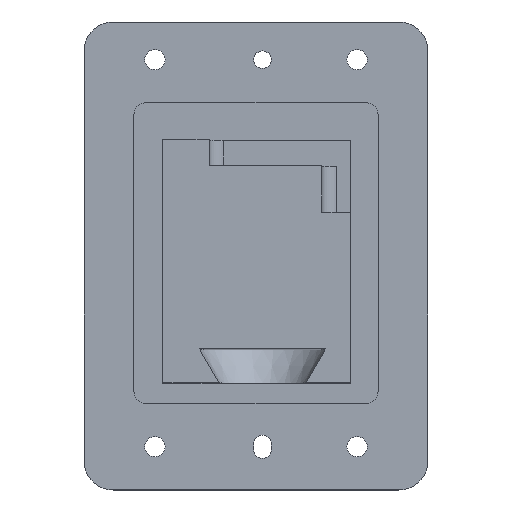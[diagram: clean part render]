
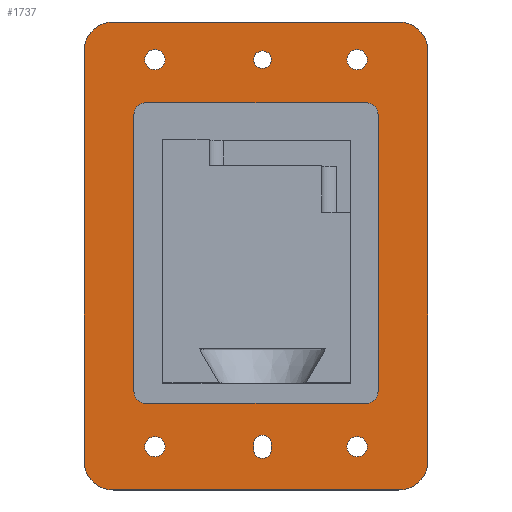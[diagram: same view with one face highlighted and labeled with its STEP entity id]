
A CAD part, top view. The second image highlights one B-rep face of the part: STEP entity #1737.
In plain terms, the highlighted planar face has unit normal (0, 0, 1).
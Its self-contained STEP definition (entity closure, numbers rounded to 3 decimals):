
#19=FACE_BOUND('',#241,.T.);
#20=FACE_BOUND('',#242,.T.);
#21=FACE_BOUND('',#243,.T.);
#22=FACE_BOUND('',#244,.T.);
#23=FACE_BOUND('',#245,.T.);
#24=FACE_BOUND('',#246,.T.);
#25=FACE_BOUND('',#247,.T.);
#68=PLANE('',#1861);
#140=FACE_OUTER_BOUND('',#240,.T.);
#240=EDGE_LOOP('',(#1323,#1324,#1325,#1326,#1327,#1328,#1329,#1330));
#241=EDGE_LOOP('',(#1331,#1332,#1333,#1334,#1335,#1336,#1337,#1338));
#242=EDGE_LOOP('',(#1339));
#243=EDGE_LOOP('',(#1340,#1341,#1342,#1343));
#244=EDGE_LOOP('',(#1344));
#245=EDGE_LOOP('',(#1345));
#246=EDGE_LOOP('',(#1346));
#247=EDGE_LOOP('',(#1347));
#360=LINE('',#2555,#543);
#370=LINE('',#2584,#553);
#374=LINE('',#2595,#557);
#375=LINE('',#2597,#558);
#394=LINE('',#2646,#577);
#398=LINE('',#2657,#581);
#405=LINE('',#2676,#588);
#406=LINE('',#2680,#589);
#407=LINE('',#2684,#590);
#408=LINE('',#2687,#591);
#543=VECTOR('',#2044,48.);
#553=VECTOR('',#2068,48.);
#557=VECTOR('',#2082,38.25);
#558=VECTOR('',#2085,38.25);
#577=VECTOR('',#2124,1.);
#581=VECTOR('',#2136,1.);
#588=VECTOR('',#2153,49.5);
#589=VECTOR('',#2156,71.);
#590=VECTOR('',#2159,49.5);
#591=VECTOR('',#2162,71.);
#711=CIRCLE('',#1829,2.);
#715=CIRCLE('',#1836,2.);
#716=CIRCLE('',#1839,2.);
#717=CIRCLE('',#1841,2.);
#719=CIRCLE('',#1848,1.5);
#721=CIRCLE('',#1851,1.5);
#723=CIRCLE('',#1855,1.5);
#726=CIRCLE('',#1862,5.);
#727=CIRCLE('',#1863,5.);
#728=CIRCLE('',#1864,5.);
#729=CIRCLE('',#1865,5.);
#730=CIRCLE('',#1866,1.75);
#731=CIRCLE('',#1867,1.75);
#732=CIRCLE('',#1868,1.75);
#733=CIRCLE('',#1869,1.75);
#792=VERTEX_POINT('',#2545);
#793=VERTEX_POINT('',#2547);
#795=VERTEX_POINT('',#2553);
#805=VERTEX_POINT('',#2577);
#806=VERTEX_POINT('',#2579);
#807=VERTEX_POINT('',#2583);
#808=VERTEX_POINT('',#2587);
#809=VERTEX_POINT('',#2591);
#823=VERTEX_POINT('',#2631);
#825=VERTEX_POINT('',#2636);
#826=VERTEX_POINT('',#2637);
#829=VERTEX_POINT('',#2645);
#831=VERTEX_POINT('',#2651);
#837=VERTEX_POINT('',#2672);
#838=VERTEX_POINT('',#2673);
#839=VERTEX_POINT('',#2675);
#840=VERTEX_POINT('',#2677);
#841=VERTEX_POINT('',#2679);
#842=VERTEX_POINT('',#2681);
#843=VERTEX_POINT('',#2683);
#844=VERTEX_POINT('',#2685);
#845=VERTEX_POINT('',#2688);
#846=VERTEX_POINT('',#2690);
#847=VERTEX_POINT('',#2692);
#848=VERTEX_POINT('',#2694);
#970=EDGE_CURVE('',#792,#793,#711,.F.);
#974=EDGE_CURVE('',#792,#795,#360,.T.);
#986=EDGE_CURVE('',#805,#806,#715,.F.);
#988=EDGE_CURVE('',#807,#806,#370,.T.);
#991=EDGE_CURVE('',#808,#795,#716,.F.);
#992=EDGE_CURVE('',#807,#809,#717,.F.);
#994=EDGE_CURVE('',#808,#809,#374,.T.);
#995=EDGE_CURVE('',#805,#793,#375,.T.);
#1013=EDGE_CURVE('',#823,#823,#719,.T.);
#1015=EDGE_CURVE('',#825,#826,#721,.T.);
#1019=EDGE_CURVE('',#826,#829,#394,.T.);
#1022=EDGE_CURVE('',#829,#831,#723,.T.);
#1025=EDGE_CURVE('',#831,#825,#398,.T.);
#1033=EDGE_CURVE('',#837,#838,#726,.T.);
#1034=EDGE_CURVE('',#837,#839,#405,.T.);
#1035=EDGE_CURVE('',#840,#839,#727,.T.);
#1036=EDGE_CURVE('',#840,#841,#406,.T.);
#1037=EDGE_CURVE('',#842,#841,#728,.T.);
#1038=EDGE_CURVE('',#842,#843,#407,.T.);
#1039=EDGE_CURVE('',#844,#843,#729,.T.);
#1040=EDGE_CURVE('',#844,#838,#408,.T.);
#1041=EDGE_CURVE('',#845,#845,#730,.T.);
#1042=EDGE_CURVE('',#846,#846,#731,.T.);
#1043=EDGE_CURVE('',#847,#847,#732,.T.);
#1044=EDGE_CURVE('',#848,#848,#733,.T.);
#1323=ORIENTED_EDGE('',*,*,#1033,.F.);
#1324=ORIENTED_EDGE('',*,*,#1034,.T.);
#1325=ORIENTED_EDGE('',*,*,#1035,.F.);
#1326=ORIENTED_EDGE('',*,*,#1036,.T.);
#1327=ORIENTED_EDGE('',*,*,#1037,.F.);
#1328=ORIENTED_EDGE('',*,*,#1038,.T.);
#1329=ORIENTED_EDGE('',*,*,#1039,.F.);
#1330=ORIENTED_EDGE('',*,*,#1040,.T.);
#1331=ORIENTED_EDGE('',*,*,#988,.T.);
#1332=ORIENTED_EDGE('',*,*,#986,.F.);
#1333=ORIENTED_EDGE('',*,*,#995,.T.);
#1334=ORIENTED_EDGE('',*,*,#970,.F.);
#1335=ORIENTED_EDGE('',*,*,#974,.T.);
#1336=ORIENTED_EDGE('',*,*,#991,.F.);
#1337=ORIENTED_EDGE('',*,*,#994,.T.);
#1338=ORIENTED_EDGE('',*,*,#992,.F.);
#1339=ORIENTED_EDGE('',*,*,#1013,.T.);
#1340=ORIENTED_EDGE('',*,*,#1022,.T.);
#1341=ORIENTED_EDGE('',*,*,#1025,.T.);
#1342=ORIENTED_EDGE('',*,*,#1015,.T.);
#1343=ORIENTED_EDGE('',*,*,#1019,.T.);
#1344=ORIENTED_EDGE('',*,*,#1041,.T.);
#1345=ORIENTED_EDGE('',*,*,#1042,.T.);
#1346=ORIENTED_EDGE('',*,*,#1043,.T.);
#1347=ORIENTED_EDGE('',*,*,#1044,.T.);
#1737=ADVANCED_FACE('',(#140,#19,#20,#21,#22,#23,#24,#25),#68,.T.);
#1829=AXIS2_PLACEMENT_3D('',#2548,#2037,#2038);
#1836=AXIS2_PLACEMENT_3D('',#2580,#2063,#2064);
#1839=AXIS2_PLACEMENT_3D('',#2589,#2073,#2074);
#1841=AXIS2_PLACEMENT_3D('',#2592,#2077,#2078);
#1848=AXIS2_PLACEMENT_3D('',#2632,#2110,#2111);
#1851=AXIS2_PLACEMENT_3D('',#2638,#2116,#2117);
#1855=AXIS2_PLACEMENT_3D('',#2652,#2129,#2130);
#1861=AXIS2_PLACEMENT_3D('',#2671,#2149,#2150);
#1862=AXIS2_PLACEMENT_3D('',#2674,#2151,#2152);
#1863=AXIS2_PLACEMENT_3D('',#2678,#2154,#2155);
#1864=AXIS2_PLACEMENT_3D('',#2682,#2157,#2158);
#1865=AXIS2_PLACEMENT_3D('',#2686,#2160,#2161);
#1866=AXIS2_PLACEMENT_3D('',#2689,#2163,#2164);
#1867=AXIS2_PLACEMENT_3D('',#2691,#2165,#2166);
#1868=AXIS2_PLACEMENT_3D('',#2693,#2167,#2168);
#1869=AXIS2_PLACEMENT_3D('',#2695,#2169,#2170);
#2037=DIRECTION('center_axis',(0.,0.,-1.));
#2038=DIRECTION('ref_axis',(-0.707,-0.707,0.));
#2044=DIRECTION('',(0.,1.,0.));
#2063=DIRECTION('center_axis',(0.,0.,-1.));
#2064=DIRECTION('ref_axis',(0.707,-0.707,0.));
#2068=DIRECTION('',(0.,-1.,0.));
#2073=DIRECTION('center_axis',(0.,0.,-1.));
#2074=DIRECTION('ref_axis',(-0.707,0.707,0.));
#2077=DIRECTION('center_axis',(0.,0.,-1.));
#2078=DIRECTION('ref_axis',(0.707,0.707,0.));
#2082=DIRECTION('',(1.,0.,0.));
#2085=DIRECTION('',(-1.,0.,0.));
#2110=DIRECTION('center_axis',(0.,0.,-1.));
#2111=DIRECTION('ref_axis',(1.,0.,0.));
#2116=DIRECTION('center_axis',(0.,0.,-1.));
#2117=DIRECTION('ref_axis',(-1.,0.,0.));
#2124=DIRECTION('',(0.,-1.,0.));
#2129=DIRECTION('center_axis',(0.,0.,-1.));
#2130=DIRECTION('ref_axis',(1.,0.,0.));
#2136=DIRECTION('',(0.,1.,0.));
#2149=DIRECTION('center_axis',(0.,0.,1.));
#2150=DIRECTION('ref_axis',(1.,0.,0.));
#2151=DIRECTION('center_axis',(0.,0.,-1.));
#2152=DIRECTION('ref_axis',(-0.707,-0.707,0.));
#2153=DIRECTION('',(1.,0.,0.));
#2154=DIRECTION('center_axis',(0.,0.,-1.));
#2155=DIRECTION('ref_axis',(0.707,-0.707,0.));
#2156=DIRECTION('',(0.,1.,0.));
#2157=DIRECTION('center_axis',(0.,0.,-1.));
#2158=DIRECTION('ref_axis',(0.707,0.707,0.));
#2159=DIRECTION('',(-1.,0.,0.));
#2160=DIRECTION('center_axis',(0.,0.,-1.));
#2161=DIRECTION('ref_axis',(-0.707,0.707,0.));
#2162=DIRECTION('',(0.,-1.,0.));
#2163=DIRECTION('center_axis',(0.,0.,-1.));
#2164=DIRECTION('ref_axis',(-1.,0.,0.));
#2165=DIRECTION('center_axis',(0.,0.,-1.));
#2166=DIRECTION('ref_axis',(-1.,0.,0.));
#2167=DIRECTION('center_axis',(0.,0.,-1.));
#2168=DIRECTION('ref_axis',(-1.,0.,0.));
#2169=DIRECTION('center_axis',(0.,0.,-1.));
#2170=DIRECTION('ref_axis',(-1.,0.,0.));
#2545=CARTESIAN_POINT('',(-21.25,-25.5,-33.5));
#2547=CARTESIAN_POINT('',(-19.25,-27.5,-33.5));
#2548=CARTESIAN_POINT('Origin',(-19.25,-25.5,-33.5));
#2553=CARTESIAN_POINT('',(-21.25,22.5,-33.5));
#2555=CARTESIAN_POINT('',(-21.25,11.25,-33.5));
#2577=CARTESIAN_POINT('',(19.,-27.5,-33.5));
#2579=CARTESIAN_POINT('',(21.,-25.5,-33.5));
#2580=CARTESIAN_POINT('Origin',(19.,-25.5,-33.5));
#2583=CARTESIAN_POINT('',(21.,22.5,-33.5));
#2584=CARTESIAN_POINT('',(21.,-14.75,-33.5));
#2587=CARTESIAN_POINT('',(-19.25,24.5,-33.5));
#2589=CARTESIAN_POINT('Origin',(-19.25,22.5,-33.5));
#2591=CARTESIAN_POINT('',(19.,24.5,-33.5));
#2592=CARTESIAN_POINT('Origin',(19.,22.5,-33.5));
#2595=CARTESIAN_POINT('',(10.438,24.5,-33.5));
#2597=CARTESIAN_POINT('',(-10.688,-27.5,-33.5));
#2631=CARTESIAN_POINT('',(-0.5,32.,-33.5));
#2632=CARTESIAN_POINT('Origin',(1.,32.,-33.5));
#2636=CARTESIAN_POINT('',(-0.5,-34.5,-33.5));
#2637=CARTESIAN_POINT('',(2.5,-34.5,-33.5));
#2638=CARTESIAN_POINT('Origin',(1.,-34.5,-33.5));
#2645=CARTESIAN_POINT('',(2.5,-35.5,-33.5));
#2646=CARTESIAN_POINT('',(2.5,-18.75,-33.5));
#2651=CARTESIAN_POINT('',(-0.5,-35.5,-33.5));
#2652=CARTESIAN_POINT('Origin',(1.,-35.5,-33.5));
#2657=CARTESIAN_POINT('',(-0.5,-18.25,-33.5));
#2671=CARTESIAN_POINT('Origin',(-0.125,-2.,-33.5));
#2672=CARTESIAN_POINT('',(-24.875,-42.5,-33.5));
#2673=CARTESIAN_POINT('',(-29.875,-37.5,-33.5));
#2674=CARTESIAN_POINT('Origin',(-24.875,-37.5,-33.5));
#2675=CARTESIAN_POINT('',(24.625,-42.5,-33.5));
#2676=CARTESIAN_POINT('',(-29.875,-42.5,-33.5));
#2677=CARTESIAN_POINT('',(29.625,-37.5,-33.5));
#2678=CARTESIAN_POINT('Origin',(24.625,-37.5,-33.5));
#2679=CARTESIAN_POINT('',(29.625,33.5,-33.5));
#2680=CARTESIAN_POINT('',(29.625,-42.5,-33.5));
#2681=CARTESIAN_POINT('',(24.625,38.5,-33.5));
#2682=CARTESIAN_POINT('Origin',(24.625,33.5,-33.5));
#2683=CARTESIAN_POINT('',(-24.875,38.5,-33.5));
#2684=CARTESIAN_POINT('',(29.625,38.5,-33.5));
#2685=CARTESIAN_POINT('',(-29.875,33.5,-33.5));
#2686=CARTESIAN_POINT('Origin',(-24.875,33.5,-33.5));
#2687=CARTESIAN_POINT('',(-29.875,38.5,-33.5));
#2688=CARTESIAN_POINT('',(-15.875,-35.,-33.5));
#2689=CARTESIAN_POINT('Origin',(-17.625,-35.,-33.5));
#2690=CARTESIAN_POINT('',(-15.875,32.,-33.5));
#2691=CARTESIAN_POINT('Origin',(-17.625,32.,-33.5));
#2692=CARTESIAN_POINT('',(19.125,32.,-33.5));
#2693=CARTESIAN_POINT('Origin',(17.375,32.,-33.5));
#2694=CARTESIAN_POINT('',(19.125,-35.,-33.5));
#2695=CARTESIAN_POINT('Origin',(17.375,-35.,-33.5));
